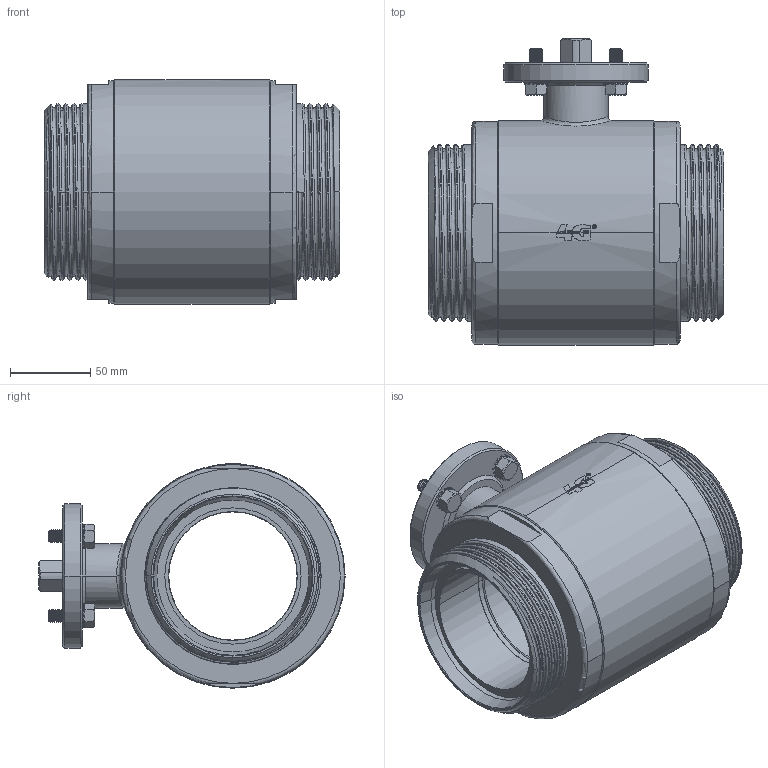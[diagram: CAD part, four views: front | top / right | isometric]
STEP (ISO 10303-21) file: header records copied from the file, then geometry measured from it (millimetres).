
FILE_DESCRIPTION((''),'2;1');
FILE_NAME('13302564810','2023-03-24T14:32:17',('alfio.taboni'),('CDM Tecnoconsulting'),'CREO PARAMETRIC BY PTC INC, 2020053','CREO PARAMETRIC BY PTC INC, 2020053','');
FILE_SCHEMA(('CONFIG_CONTROL_DESIGN','SHAPE_APPEARANCE_LAYERS_GROUPS'));
Products named in the file (1): 13302564810
Bounding box: 184 x 191 x 140 mm (x, y, z)
Volume: 1572711.5 mm3; surface area: 336753.1 mm2
Topology: 1 solids, 1 shells, 1320 faces, 3618 edges, 2337 vertices
Faces by surface type: plane 478, cylinder 428, cone 161, bspline 107, torus 78, extrusion 56, sphere 12
Entity records: 99874 total; most frequent: CARTESIAN_POINT 55870, ORIENTED_EDGE 7220, DIRECTION 5441, PRESENTATION_STYLE_ASSIGNMENT 3907, STYLED_ITEM 3667, CURVE_STYLE 3666, EDGE_CURVE 3610, VERTEX_POINT 2337
